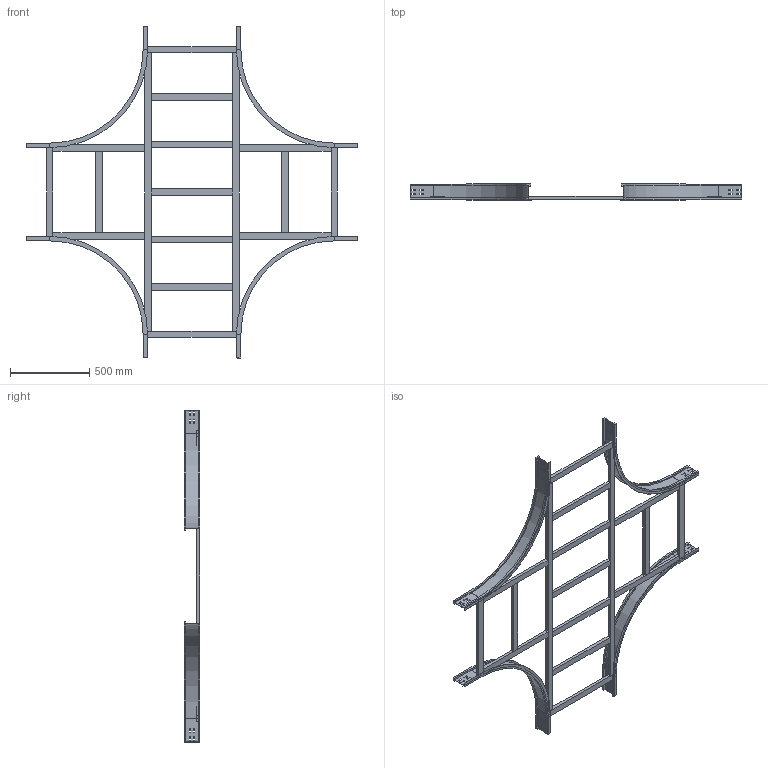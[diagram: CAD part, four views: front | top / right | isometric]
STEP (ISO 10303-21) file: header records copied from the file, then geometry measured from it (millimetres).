
FILE_DESCRIPTION (( 'STEP AP214' ), '1' );
FILE_NAME ('17S6D600.step', '2025-02-21T16:16:40', ( '' ), ( '' ), 'SwSTEP 2.0', 'SolidWorks 2023', '' );
FILE_SCHEMA (( 'AUTOMOTIVE_DESIGN' ));
Length unit declared in the file: millimetre
Products named in the file (7): TRAVERSINO_COPPIA_600; TRAVERSINO_600; TRAVERSINO_LONG._R600+600; 17S6D600; TRAVERSINO_VERT_R600; TRAVERSINO_INTERMEDIO_X_R600+600; LONGH.INTERNO 90°_H100_R600
Assembly tree (21 placements, depth 2):
  17S6D600
    LONGH.INTERNO 90°_H100_R600  x4
    TRAVERSINO_600  x4
    TRAVERSINO_LONG._R600+600  x2
    TRAVERSINO_INTERMEDIO_X_R600+600  x5
    TRAVERSINO_VERT_R600  x4
    TRAVERSINO_COPPIA_600  x2
Bounding box: 2100 x 100 x 2100 mm (x, y, z)
Volume: 12220711.9 mm3; surface area: 2932749 mm2
Topology: 21 solids, 21 shells, 382 faces, 924 edges, 584 vertices
Faces by surface type: plane 358, cylinder 24
Entity records: 3196 total; most frequent: CARTESIAN_POINT 516, DIRECTION 500, ORIENTED_EDGE 480, EDGE_CURVE 240, LINE 228, VECTOR 228, VERTEX_POINT 152, AXIS2_PLACEMENT_3D 136
